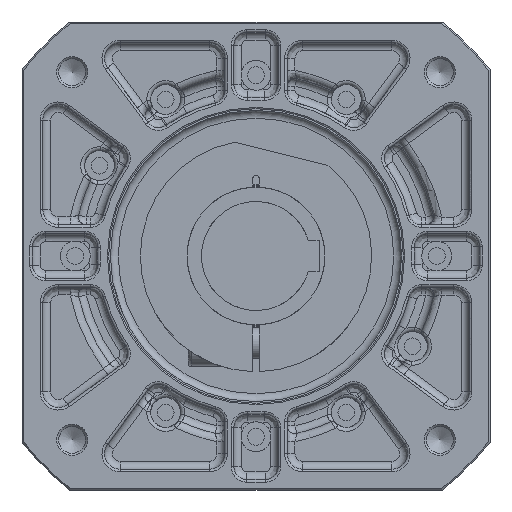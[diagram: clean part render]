
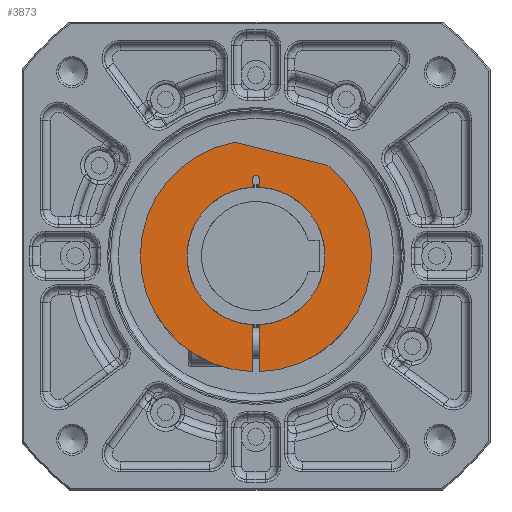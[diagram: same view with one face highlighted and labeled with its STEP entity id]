
A CAD part, left-side view. The second image highlights one B-rep face of the part: STEP entity #3873.
In plain terms, the highlighted planar face has unit normal (-1, 0, 0).
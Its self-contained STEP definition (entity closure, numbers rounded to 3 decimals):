
#867=FACE_OUTER_BOUND('',#5225,.T.);
#1926=LINE('',#22047,#2538);
#1931=LINE('',#22062,#2543);
#1935=LINE('',#22074,#2547);
#1939=LINE('',#22088,#2551);
#1941=LINE('',#22091,#2553);
#2538=VECTOR('',#17117,1.);
#2543=VECTOR('',#17130,1.);
#2547=VECTOR('',#17142,1.);
#2551=VECTOR('',#17156,1.);
#2553=VECTOR('',#17160,1.);
#3270=PLANE('',#14791);
#3873=ADVANCED_FACE('',(#867),#3270,.T.);
#5225=EDGE_LOOP('',(#6534,#6535,#6536,#6537,#6538,#6539,#6540,#6541,#6542,
#6543));
#6534=ORIENTED_EDGE('',*,*,#11512,.F.);
#6535=ORIENTED_EDGE('',*,*,#11541,.F.);
#6536=ORIENTED_EDGE('',*,*,#11534,.F.);
#6537=ORIENTED_EDGE('',*,*,#11503,.F.);
#6538=ORIENTED_EDGE('',*,*,#11532,.F.);
#6539=ORIENTED_EDGE('',*,*,#11528,.F.);
#6540=ORIENTED_EDGE('',*,*,#11525,.F.);
#6541=ORIENTED_EDGE('',*,*,#11522,.F.);
#6542=ORIENTED_EDGE('',*,*,#11519,.F.);
#6543=ORIENTED_EDGE('',*,*,#11516,.F.);
#10281=VERTEX_POINT('',#22008);
#10282=VERTEX_POINT('',#22009);
#10290=VERTEX_POINT('',#22048);
#10291=VERTEX_POINT('',#22049);
#10294=VERTEX_POINT('',#22057);
#10296=VERTEX_POINT('',#22063);
#10298=VERTEX_POINT('',#22069);
#10300=VERTEX_POINT('',#22075);
#10302=VERTEX_POINT('',#22081);
#10305=VERTEX_POINT('',#22092);
#11503=EDGE_CURVE('',#10281,#10282,#13429,.T.);
#11512=EDGE_CURVE('',#10290,#10291,#1926,.T.);
#11516=EDGE_CURVE('',#10291,#10294,#13434,.T.);
#11519=EDGE_CURVE('',#10294,#10296,#1931,.T.);
#11522=EDGE_CURVE('',#10296,#10298,#13436,.T.);
#11525=EDGE_CURVE('',#10298,#10300,#1935,.T.);
#11528=EDGE_CURVE('',#10300,#10302,#13438,.T.);
#11532=EDGE_CURVE('',#10302,#10281,#1939,.T.);
#11534=EDGE_CURVE('',#10282,#10305,#1941,.T.);
#11541=EDGE_CURVE('',#10305,#10290,#13443,.T.);
#13429=CIRCLE('',#14764,44.5);
#13434=CIRCLE('',#14771,26.5);
#13436=CIRCLE('',#14775,1.25);
#13438=CIRCLE('',#14779,26.5);
#13443=CIRCLE('',#14787,44.5);
#14764=AXIS2_PLACEMENT_3D('',#22007,#17102,#17103);
#14771=AXIS2_PLACEMENT_3D('',#22056,#17123,#17124);
#14775=AXIS2_PLACEMENT_3D('',#22068,#17135,#17136);
#14779=AXIS2_PLACEMENT_3D('',#22080,#17147,#17148);
#14787=AXIS2_PLACEMENT_3D('',#22118,#17170,#17171);
#14791=AXIS2_PLACEMENT_3D('',#22122,#17178,#17179);
#17102=DIRECTION('',(1.,0.,0.));
#17103=DIRECTION('',(0.,1.,0.));
#17117=DIRECTION('',(0.,0.,1.));
#17123=DIRECTION('',(-1.,0.,0.));
#17124=DIRECTION('',(0.,1.,0.));
#17130=DIRECTION('',(0.,0.,1.));
#17135=DIRECTION('',(-1.,0.,0.));
#17136=DIRECTION('',(0.,1.,0.));
#17142=DIRECTION('',(0.,0.,-1.));
#17147=DIRECTION('',(-1.,0.,0.));
#17148=DIRECTION('',(0.,1.,0.));
#17156=DIRECTION('',(0.,0.,-1.));
#17160=DIRECTION('',(0.,-0.97,-0.242));
#17170=DIRECTION('',(1.,0.,0.));
#17171=DIRECTION('',(0.,1.,0.));
#17178=DIRECTION('',(-1.,0.,0.));
#17179=DIRECTION('',(0.,0.,1.));
#22007=CARTESIAN_POINT('',(-12.,0.,0.));
#22008=CARTESIAN_POINT('',(-12.,1.25,-44.482));
#22009=CARTESIAN_POINT('',(-12.,8.094,43.758));
#22047=CARTESIAN_POINT('',(-12.,-1.25,-44.482));
#22048=CARTESIAN_POINT('',(-12.,-1.25,-44.482));
#22049=CARTESIAN_POINT('',(-12.,-1.25,-26.471));
#22056=CARTESIAN_POINT('',(-12.,0.,0.));
#22057=CARTESIAN_POINT('',(-12.,-1.25,26.471));
#22062=CARTESIAN_POINT('',(-12.,-1.25,26.471));
#22063=CARTESIAN_POINT('',(-12.,-1.25,29.75));
#22068=CARTESIAN_POINT('',(-12.,0.,29.75));
#22069=CARTESIAN_POINT('',(-12.,1.25,29.75));
#22074=CARTESIAN_POINT('',(-12.,1.25,29.75));
#22075=CARTESIAN_POINT('',(-12.,1.25,26.471));
#22080=CARTESIAN_POINT('',(-12.,0.,0.));
#22081=CARTESIAN_POINT('',(-12.,1.25,-26.471));
#22088=CARTESIAN_POINT('',(-12.,1.25,-26.471));
#22091=CARTESIAN_POINT('',(-12.,8.094,43.758));
#22092=CARTESIAN_POINT('',(-12.,-27.689,34.836));
#22118=CARTESIAN_POINT('',(-12.,0.,0.));
#22122=CARTESIAN_POINT('',(-12.,0.,0.));
